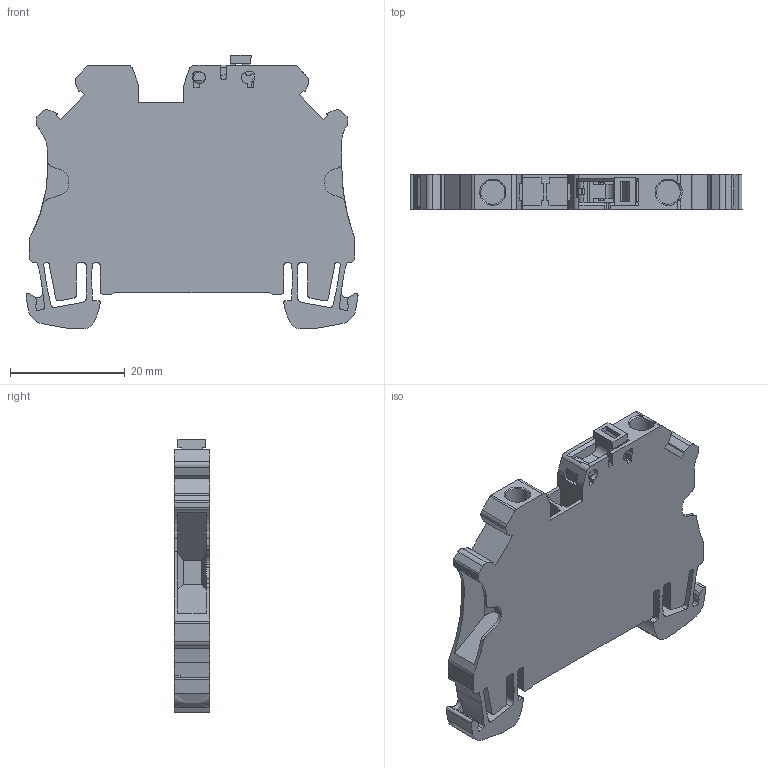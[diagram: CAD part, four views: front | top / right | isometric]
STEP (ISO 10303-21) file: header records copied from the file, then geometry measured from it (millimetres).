
FILE_DESCRIPTION( ('This file contains a STEP AP42 implementation' ,'as created by ZW3D STEP Interface translator.') ,'2;1' );
FILE_NAME( 'RUT4-MT.stp' ,'23 322.11 655', (''), ('ZWCAD Software Co.'), 'Version 1.0', 'ZW3D to STEP translator', '' );
FILE_SCHEMA(('AUTOMOTIVE_DESIGN { 1 0 10303 214 1 1 1 1 }'));
Length unit declared in the file: millimetre
Products named in the file (2): 0; RUT4-MT
Bounding box: 57.93 x 6.15 x 47.7 mm (x, y, z)
Volume: 11413.1 mm3; surface area: 6918.3 mm2
Topology: 1 solids, 1 shells, 345 faces, 1057 edges, 706 vertices
Faces by surface type: plane 191, cylinder 140, bspline 9, cone 5
Full cylindrical faces by diameter (mm): 4.2 x2
Entity records: 12517 total; most frequent: CARTESIAN_POINT 2363, ORIENTED_EDGE 2114, DIRECTION 2020, EDGE_CURVE 1057, VERTEX_POINT 706, VECTOR 680, LINE 680, AXIS2_PLACEMENT_3D 670
